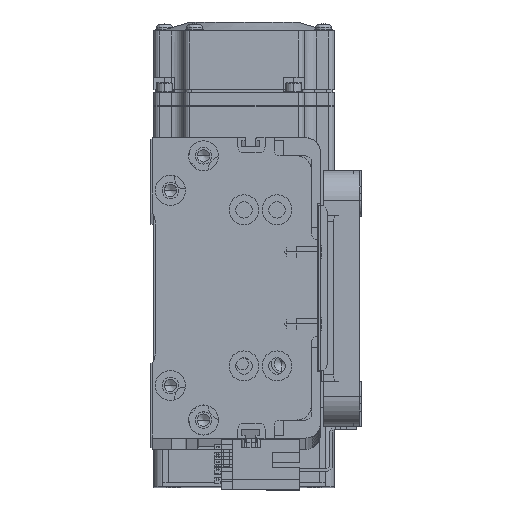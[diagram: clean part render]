
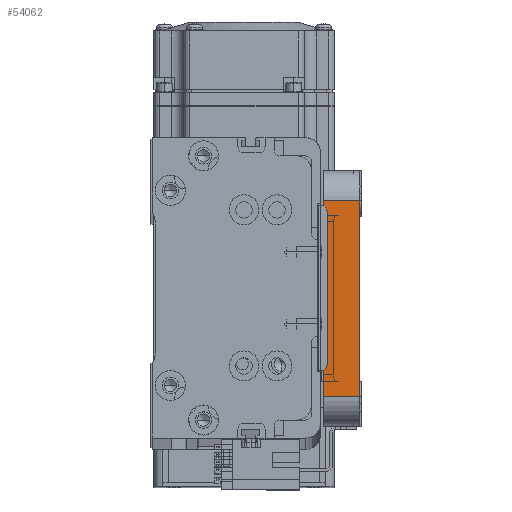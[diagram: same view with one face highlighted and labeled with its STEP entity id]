
A CAD part, top view. The second image highlights one B-rep face of the part: STEP entity #54062.
In plain terms, the highlighted planar face has unit normal (0, 0, 1) as drawn and (-1, 0, 0) by its records, which use the part's own axes.
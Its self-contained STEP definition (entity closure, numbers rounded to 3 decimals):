
#9358 = DIRECTION ( 'NONE',  ( 1., 0., 0. ) ) ;
#10113 = CARTESIAN_POINT ( 'NONE',  ( -55., -32.5, 0. ) ) ;
#10167 = CARTESIAN_POINT ( 'NONE',  ( -55., -32.5, 12. ) ) ;
#16955 = CARTESIAN_POINT ( 'NONE',  ( -55., 32.5, 12. ) ) ;
#20500 = CARTESIAN_POINT ( 'NONE',  ( -55., -42.5, 0. ) ) ;
#20748 = CARTESIAN_POINT ( 'NONE',  ( -55., 32.5, 0. ) ) ;
#21446 = LINE ( 'NONE', #10167, #53858 ) ;
#23393 = DIRECTION ( 'NONE',  ( 0., 0., -1. ) ) ;
#25698 = CARTESIAN_POINT ( 'NONE',  ( -55., -42.5, 12. ) ) ;
#27324 = VERTEX_POINT ( 'NONE', #10113 ) ;
#27429 = CARTESIAN_POINT ( 'NONE',  ( -55., -42.5, 12. ) ) ;
#29187 = LINE ( 'NONE', #25698, #75944 ) ;
#29241 = EDGE_LOOP ( 'NONE', ( #66719, #54323, #54966, #67514 ) ) ;
#34966 = VERTEX_POINT ( 'NONE', #36558 ) ;
#36558 = CARTESIAN_POINT ( 'NONE',  ( -55., -32.5, 12. ) ) ;
#37573 = VECTOR ( 'NONE', #23393, 1000. ) ;
#42852 = CARTESIAN_POINT ( 'NONE',  ( -55., 32.5, 12. ) ) ;
#45855 = PLANE ( 'NONE',  #62368 ) ;
#51986 = DIRECTION ( 'NONE',  ( 0., 0., -1. ) ) ;
#52768 = DIRECTION ( 'NONE',  ( 0., 0., 1. ) ) ;
#53858 = VECTOR ( 'NONE', #52768, 1000. ) ;
#54062 = ADVANCED_FACE ( 'NONE', ( #77759 ), #45855, .F. ) ;
#54158 = EDGE_CURVE ( 'NONE', #27324, #34966, #21446, .T. ) ;
#54323 = ORIENTED_EDGE ( 'NONE', *, *, #54158, .T. ) ;
#54966 = ORIENTED_EDGE ( 'NONE', *, *, #59131, .F. ) ;
#55702 = LINE ( 'NONE', #16955, #37573 ) ;
#59131 = EDGE_CURVE ( 'NONE', #64020, #34966, #29187, .T. ) ;
#62085 = EDGE_CURVE ( 'NONE', #67740, #27324, #69762, .T. ) ;
#62368 = AXIS2_PLACEMENT_3D ( 'NONE', #27429, #9358, #51986 ) ;
#63187 = DIRECTION ( 'NONE',  ( 0., -1., 0. ) ) ;
#64020 = VERTEX_POINT ( 'NONE', #42852 ) ;
#64464 = EDGE_CURVE ( 'NONE', #64020, #67740, #55702, .T. ) ;
#65920 = VECTOR ( 'NONE', #63187, 1000. ) ;
#66719 = ORIENTED_EDGE ( 'NONE', *, *, #62085, .T. ) ;
#67514 = ORIENTED_EDGE ( 'NONE', *, *, #64464, .T. ) ;
#67740 = VERTEX_POINT ( 'NONE', #20748 ) ;
#68909 = DIRECTION ( 'NONE',  ( 0., -1., 0. ) ) ;
#69762 = LINE ( 'NONE', #20500, #65920 ) ;
#75944 = VECTOR ( 'NONE', #68909, 1000. ) ;
#77759 = FACE_OUTER_BOUND ( 'NONE', #29241, .T. ) ;
